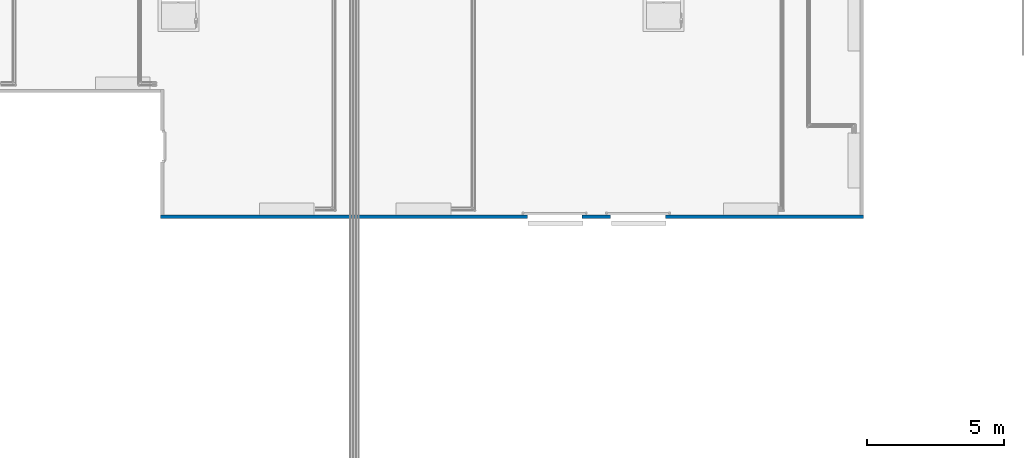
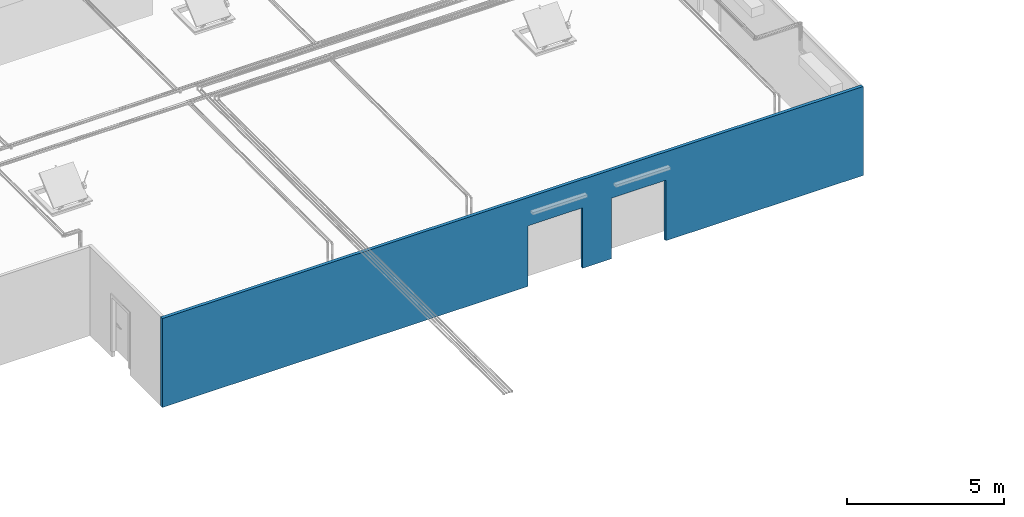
# One storey, part 17 of 652: 1 wall, 4 openings.
"""IFC2X3 building model written with IfcOpenShell, lengths in millimetres."""

from ifc_helpers import new_model, entity, si_unit, converted_unit, direction, frame, frame_2d, origin, origin_2d_with_axis, place, context, subcontext, project, spatial, rectangle, extrude, material, layer, layer_set, layer_usage, type_object, element, save


model = new_model("IFC2X3")

# Units and contexts
model_context = context("Model", 3, precision=0.01, world=frame((0.0, 0.0, 308426.39999999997)), true_north=direction((6.123233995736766e-17, 1.0)))
plan_context = context("Plan", 3, precision=0.01, world=frame((0.0, 0.0, 308426.39999999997)), true_north=direction((6.123233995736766e-17, 1.0)))
body_context = subcontext(model_context, "Body", "Model", "MODEL_VIEW")
ifc_project = project(units=[si_unit("LENGTHUNIT", "METRE", prefix="MILLI"), si_unit("AREAUNIT", "SQUARE_METRE"), si_unit("VOLUMEUNIT", "CUBIC_METRE"), converted_unit("PLANEANGLEUNIT", "DEGREE", entity("IfcPlaneAngleMeasure", 0.017453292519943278), si_unit("PLANEANGLEUNIT", "RADIAN"), dimensions=[0, 0, 0, 0, 0, 0, 0])], contexts=[model_context, plan_context])

# Site, building, storey
site_placement = place(None, origin())
site = spatial("IfcSite", under=ifc_project, at=site_placement, Name="Default", CompositionType="ELEMENT")
building_placement = place(site_placement, origin())
building = spatial("IfcBuilding", under=site, at=building_placement, CompositionType="ELEMENT")
storey_placement = place(building_placement, frame((0.0, 0.0, 1730.6999999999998)))
storey = spatial("IfcBuildingStorey", under=building, at=storey_placement, Name="EG_Produktion_FFB", CompositionType="ELEMENT", Elevation=1730.6999999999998)

# Wall, openings
ifc_material = material(Name="GPG_Paneelwand")
ifc_layer = layer(ifc_material, 120.0)
ifc_layer_set = layer_set([ifc_layer], Name="Basiswand:Kühlzellen Paneelwand 120")
ifc_layer_usage = layer_usage(ifc_layer_set, "AXIS2", "POSITIVE", -60.0)
wall_type = type_object("IfcWallType", Name="Basiswand:Kühlzellen Paneelwand 120", PredefinedType="STANDARD", material=ifc_layer_set)
wall_placement = place(storey_placement, frame((40900.0, 31670.0, -250.0)))
wall = element("IfcWallStandardCase", 1, at=wall_placement, inside=storey, type_object=wall_type, material=ifc_layer_usage, Name="Basiswand:Kühlzellen Paneelwand 120", ObjectType="Basiswand:Kühlzellen Paneelwand 120", context=body_context, shape_type="SweptSolid", body=[
    extrude(rectangle(XDim=25719.999999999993, YDim=119.9999999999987, at=frame_2d((12859.999999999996, -4.689582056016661e-13), x_axis=(-1.0, 0.0))), origin(), (0.0, 0.0, 1.0), 3449.9999999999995),
])
opening_1_placement = place(wall_placement, frame((-40900.0, -31670.0, 250.0)))
element("IfcOpeningElement", 2, at=opening_1_placement, cuts=wall, Name="Basiswand:Kühlzellen Paneelwand 120", ObjectType="Opening", context=body_context, shape_type="SweptSolid", body=[
    extrude(rectangle(XDim=2099.9999999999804, YDim=1999.999999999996, at=frame_2d((-1.1368683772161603e-13, 0.0), x_axis=(1.0, 0.0))), frame((58370.0, 30086.0, 1050.0), z_axis=(0.0, 1.0, 0.0), x_axis=(0.0, 0.0, -1.0)), (0.0, 0.0, 1.0), 3048.0),
])
opening_2_placement = place(wall_placement, frame((-40900.0, -31670.0, 250.0)))
element("IfcOpeningElement", 3, at=opening_2_placement, cuts=wall, Name="Basiswand:Kühlzellen Paneelwand 120", ObjectType="Opening", context=body_context, shape_type="SweptSolid", body=[
    extrude(rectangle(XDim=250.00000000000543, YDim=1999.999999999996, at=origin_2d_with_axis()), frame((58370.0, 30206.0, -125.0), z_axis=(0.0, 1.0, 0.0), x_axis=(0.0, 0.0, -1.0)), (0.0, 0.0, 1.0), 3048.0),
])
opening_3_placement = place(wall_placement, frame((-40900.0, -31670.0, 250.0)))
element("IfcOpeningElement", 4, at=opening_3_placement, cuts=wall, Name="Basiswand:Kühlzellen Paneelwand 120", ObjectType="Opening", context=body_context, shape_type="SweptSolid", body=[
    extrude(rectangle(XDim=2099.9999999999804, YDim=1999.999999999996, at=frame_2d((-1.1368683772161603e-13, 0.0), x_axis=(1.0, 0.0))), frame((55320.0, 30086.0, 1050.0), z_axis=(0.0, 1.0, 0.0), x_axis=(0.0, 0.0, -1.0)), (0.0, 0.0, 1.0), 3048.0),
])
opening_4_placement = place(wall_placement, frame((-40900.0, -31670.0, 250.0)))
element("IfcOpeningElement", 5, at=opening_4_placement, cuts=wall, Name="Basiswand:Kühlzellen Paneelwand 120", ObjectType="Opening", context=body_context, shape_type="SweptSolid", body=[
    extrude(rectangle(XDim=250.00000000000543, YDim=1999.999999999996, at=origin_2d_with_axis()), frame((55320.0, 30206.0, -125.0), z_axis=(0.0, 1.0, 0.0), x_axis=(0.0, 0.0, -1.0)), (0.0, 0.0, 1.0), 3048.0),
])

save(model, "model.ifc")
